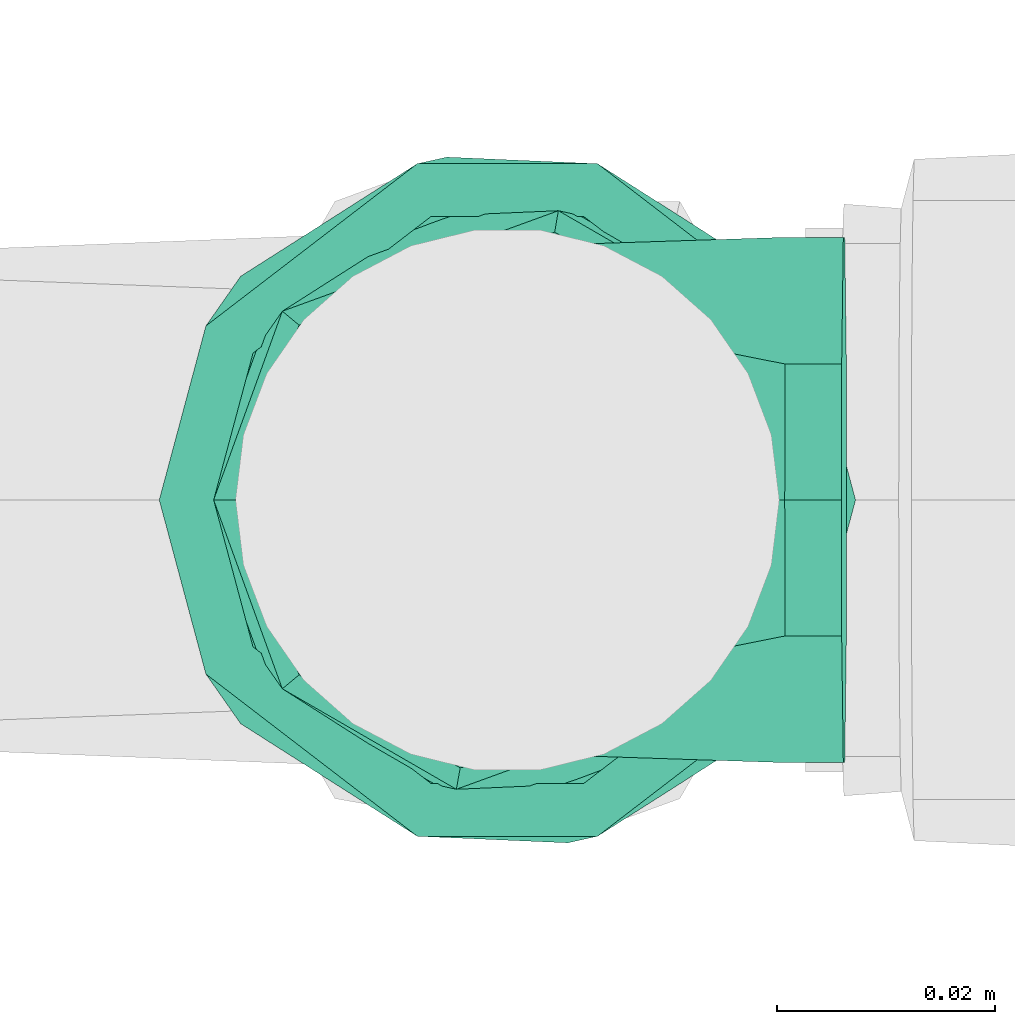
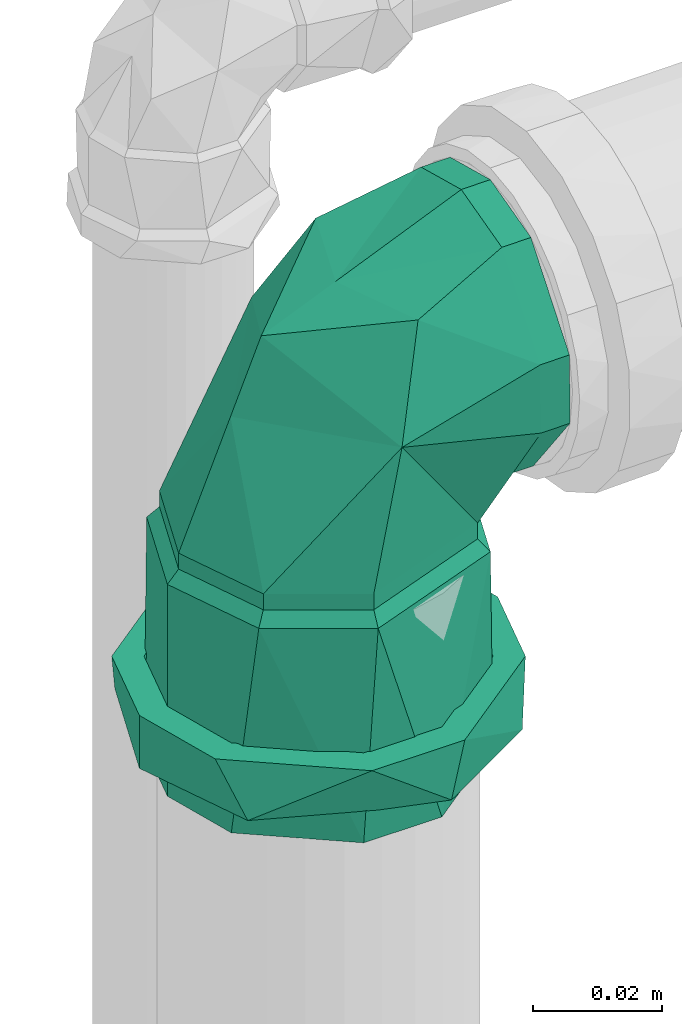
# One storey, part 30 of 589: 1 flow fitting.
"""IFC2X3 building model written with IfcOpenShell, lengths in millimetres."""

from ifc_helpers import new_model, entity, si_unit, converted_unit, derived_unit, direction, frame, origin, place, context, subcontext, project, spatial, faceted_brep, source, transform, mapped, material, type_object, type_shapes, element, save


model = new_model("IFC2X3")

# Units and contexts
model_context = context("Model", 3, precision=0.01, world=origin(), true_north=direction((6.123031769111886e-17, 1.0)))
body_context = subcontext(model_context, "Body", "Model", "MODEL_VIEW")
ifc_project = project(units=[si_unit("LENGTHUNIT", "METRE", prefix="MILLI"), si_unit("AREAUNIT", "SQUARE_METRE"), si_unit("VOLUMEUNIT", "CUBIC_METRE"), converted_unit("PLANEANGLEUNIT", "DEGREE", entity("IfcRatioMeasure", 0.017453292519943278), si_unit("PLANEANGLEUNIT", "RADIAN"), dimensions=[0, 0, 0, 0, 0, 0, 0]), si_unit("MASSUNIT", "GRAM", prefix="KILO"), derived_unit("MASSDENSITYUNIT", [(si_unit("MASSUNIT", "GRAM", prefix="KILO"), 1), (si_unit("LENGTHUNIT", "METRE"), -3)]), derived_unit("IONCONCENTRATIONUNIT", [(si_unit("MASSUNIT", "GRAM", prefix="KILO"), 1), (si_unit("LENGTHUNIT", "METRE"), -3)]), derived_unit("MOMENTOFINERTIAUNIT", [(si_unit("LENGTHUNIT", "METRE"), 4)]), si_unit("TIMEUNIT", "SECOND"), si_unit("FREQUENCYUNIT", "HERTZ"), si_unit("THERMODYNAMICTEMPERATUREUNIT", "DEGREE_CELSIUS"), derived_unit("THERMALTRANSMITTANCEUNIT", [(si_unit("MASSUNIT", "GRAM", prefix="KILO"), 1), (si_unit("THERMODYNAMICTEMPERATUREUNIT", "KELVIN"), -1), (si_unit("TIMEUNIT", "SECOND"), -3)]), derived_unit("THERMALCONDUCTANCEUNIT", [(si_unit("MASSUNIT", "GRAM", prefix="KILO"), 1), (si_unit("THERMODYNAMICTEMPERATUREUNIT", "KELVIN"), -1), (si_unit("TIMEUNIT", "SECOND"), -3), (si_unit("LENGTHUNIT", "METRE"), 1)]), derived_unit("VOLUMETRICFLOWRATEUNIT", [(si_unit("LENGTHUNIT", "METRE"), 3), (si_unit("TIMEUNIT", "SECOND"), -1)]), derived_unit("MASSFLOWRATEUNIT", [(si_unit("MASSUNIT", "GRAM", prefix="KILO"), 1), (si_unit("TIMEUNIT", "SECOND"), -1)]), derived_unit("ROTATIONALFREQUENCYUNIT", [(si_unit("TIMEUNIT", "SECOND"), -1)]), si_unit("ELECTRICCURRENTUNIT", "AMPERE"), si_unit("ELECTRICVOLTAGEUNIT", "VOLT"), si_unit("POWERUNIT", "WATT"), si_unit("FORCEUNIT", "NEWTON", prefix="KILO"), si_unit("ILLUMINANCEUNIT", "LUX"), si_unit("LUMINOUSFLUXUNIT", "LUMEN"), si_unit("LUMINOUSINTENSITYUNIT", "CANDELA"), derived_unit("USERDEFINED", [(si_unit("MASSUNIT", "GRAM", prefix="KILO"), -1), (si_unit("LENGTHUNIT", "METRE"), -2), (si_unit("TIMEUNIT", "SECOND"), 3), (si_unit("LUMINOUSFLUXUNIT", "LUMEN"), 1)]), derived_unit("USERDEFINED", [(si_unit("MASSUNIT", "GRAM", prefix="KILO"), 1), (si_unit("TIMEUNIT", "SECOND"), -3), (si_unit("LENGTHUNIT", "METRE"), 3), (si_unit("ELECTRICCURRENTUNIT", "AMPERE"), -2)]), derived_unit("SOUNDPOWERUNIT", [(si_unit("MASSUNIT", "GRAM", prefix="KILO"), 1), (si_unit("TIMEUNIT", "SECOND"), -3), (si_unit("LENGTHUNIT", "METRE"), 2)]), derived_unit("SOUNDPRESSUREUNIT", [(si_unit("MASSUNIT", "GRAM", prefix="KILO"), 1), (si_unit("LENGTHUNIT", "METRE"), -1), (si_unit("TIMEUNIT", "SECOND"), -2)]), derived_unit("LINEARVELOCITYUNIT", [(si_unit("LENGTHUNIT", "METRE"), 1), (si_unit("TIMEUNIT", "SECOND"), -1)]), si_unit("PRESSUREUNIT", "PASCAL"), derived_unit("USERDEFINED", [(si_unit("MASSUNIT", "GRAM", prefix="KILO"), 1), (si_unit("LENGTHUNIT", "METRE"), -2), (si_unit("TIMEUNIT", "SECOND"), -2)]), derived_unit("LINEARFORCEUNIT", [(si_unit("MASSUNIT", "GRAM", prefix="KILO"), 1), (si_unit("TIMEUNIT", "SECOND"), -2)]), derived_unit("PLANARFORCEUNIT", [(si_unit("MASSUNIT", "GRAM", prefix="KILO"), 1), (si_unit("LENGTHUNIT", "METRE"), -1), (si_unit("TIMEUNIT", "SECOND"), -2)]), derived_unit("SPECIFICHEATCAPACITYUNIT", [(si_unit("THERMODYNAMICTEMPERATUREUNIT", "KELVIN"), -1), (si_unit("LENGTHUNIT", "METRE"), 2), (si_unit("TIMEUNIT", "SECOND"), -2)]), derived_unit("HEATINGVALUEUNIT", [(si_unit("LENGTHUNIT", "METRE"), 2), (si_unit("TIMEUNIT", "SECOND"), -2)]), derived_unit("VAPORPERMEABILITYUNIT", [(si_unit("LENGTHUNIT", "METRE"), -1), (si_unit("TIMEUNIT", "SECOND"), 1)]), derived_unit("DYNAMICVISCOSITYUNIT", [(si_unit("MASSUNIT", "GRAM", prefix="KILO"), 1), (si_unit("TIMEUNIT", "SECOND"), -1), (si_unit("LENGTHUNIT", "METRE"), -1)]), derived_unit("THERMALEXPANSIONCOEFFICIENTUNIT", [(si_unit("THERMODYNAMICTEMPERATUREUNIT", "KELVIN"), -1)]), derived_unit("MODULUSOFELASTICITYUNIT", [(si_unit("MASSUNIT", "GRAM", prefix="KILO"), 1), (si_unit("LENGTHUNIT", "METRE"), -1), (si_unit("TIMEUNIT", "SECOND"), -2)]), derived_unit("ISOTHERMALMOISTURECAPACITYUNIT", [(si_unit("LENGTHUNIT", "METRE"), 3), (si_unit("MASSUNIT", "GRAM", prefix="KILO"), -1)]), derived_unit("MOISTUREDIFFUSIVITYUNIT", [(si_unit("TIMEUNIT", "SECOND"), -1), (si_unit("LENGTHUNIT", "METRE"), 2)])], contexts=[model_context])

# Site, building, storey
site_placement = place(None, origin())
site = spatial("IfcSite", under=ifc_project, at=site_placement, Name="Default", CompositionType="ELEMENT")
building_placement = place(site_placement, origin())
building = spatial("IfcBuilding", under=site, at=building_placement, CompositionType="ELEMENT")
storey_placement = place(building_placement, frame((0.0, 0.0, 100.0)))
storey = spatial("IfcBuildingStorey", under=building, at=storey_placement, Name="TÉRREO", CompositionType="ELEMENT", Elevation=100.0)

# Flow fitting
ifc_material = material(Name="PVC Série Normal")
pipe_fitting_type = type_object("IfcPipeFittingType", Name="PVC Esgoto_Joelho 45_90_Rodrigo MEP:a. Série Normal", PredefinedType="NOTDEFINED", material=ifc_material)
shared_shape = source(origin(), body_context, "Body", "Brep", [
    faceted_brep([(-6.212752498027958, 25.804714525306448, 24.14814565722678), (-21.392152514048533, 25.95650852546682, 12.500000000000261), (-24.741349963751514, 25.990000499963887, 0.0), (-21.392152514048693, 25.956508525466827, -12.499999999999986), (-6.21275249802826, 25.804714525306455, -24.1481456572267), (6.727552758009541, 25.675311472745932, -24.14814565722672), (21.906952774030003, 25.52351747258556, -12.500000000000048), (25.256150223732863, 25.490025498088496, 0.0), (21.906952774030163, 25.52351747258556, 12.499999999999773), (6.7275527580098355, 25.675311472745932, 24.148145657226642), (25.308147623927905, 30.689765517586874, 0.0), (21.958950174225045, 30.72325749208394, -12.500000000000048), (6.779550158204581, 30.87505149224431, -24.14814565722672), (-6.160755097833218, 31.004454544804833, -24.1481456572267), (-21.34015511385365, 31.156248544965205, -12.499999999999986), (-24.689352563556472, 31.18974051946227, 0.0), (-21.340155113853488, 31.1562485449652, 12.500000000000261), (-6.160755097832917, 31.00445454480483, 24.14814565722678), (6.779550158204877, 30.87505149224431, 24.148145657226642), (21.958950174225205, 30.72325749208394, 12.499999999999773)], [[[0, 1, 2, 3, 4, 5, 6, 7, 8, 9]], [[10, 11, 12, 13, 14, 15, 16, 17, 18, 19]], [[7, 10, 19, 8]], [[8, 19, 18, 9]], [[18, 17, 0, 9]], [[0, 17, 16, 1]], [[1, 16, 15, 2]], [[2, 15, 14, 3]], [[3, 14, 13, 4]], [[13, 12, 5, 4]], [[5, 12, 11, 6]], [[6, 11, 10, 7]]]),
    faceted_brep([(-70.94129996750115, -6.988114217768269, -26.07999730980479), (-70.94129996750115, -6.47047612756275, -24.14814565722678), (-70.94129996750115, 6.4704761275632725, -24.148145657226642), (-70.94129996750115, -23.382685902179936, -13.499999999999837), (-70.94129996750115, 6.988114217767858, -26.0799973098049), (-70.94129996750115, -21.650635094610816, -12.500000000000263), (-70.94129996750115, -25.0, 0.0), (-70.94129996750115, -27.0, 0.0), (-70.94129996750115, -21.650635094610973, 12.499999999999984), (-70.94129996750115, -23.382685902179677, 13.500000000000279), (-70.94129996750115, -6.470476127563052, 24.1481456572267), (-70.94129996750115, -6.98811421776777, 26.079997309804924), (-70.94129996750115, 6.470476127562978, 24.14814565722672), (-70.94129996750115, 6.988114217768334, 26.07999730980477), (-70.94129996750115, 21.650635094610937, 12.500000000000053), (-70.94129996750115, 23.38268590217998, 13.499999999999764), (-70.94129996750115, 27.0, 0.0), (-70.94129996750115, 25.0, 0.0), (-70.94129996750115, 23.382685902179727, -13.500000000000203), (-70.94129996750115, 21.6506350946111, -12.499999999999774), (-30.94129996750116, 21.650635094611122, -12.499999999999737), (-30.94129996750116, 25.0, 0.0), (-30.94129996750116, 6.4704761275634, -24.148145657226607), (-30.94129996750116, -6.470476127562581, -24.148145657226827), (-30.94129996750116, -21.650635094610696, -12.500000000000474), (-30.94129996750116, -25.0, 0.0), (-30.94129996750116, -21.65063509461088, 12.500000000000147), (-30.94129996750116, -6.470476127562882, 24.14814565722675), (-30.94129996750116, 6.470476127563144, 24.148145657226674), (-30.94129996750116, 21.650635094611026, 12.499999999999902), (-30.94129996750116, 27.0, 0.0), (-30.941299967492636, 20.682232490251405, 17.356418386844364), (-30.94129996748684, 4.685536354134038, 26.59033187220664), (-30.94129996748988, -20.686585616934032, 17.35122979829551), (-30.94129996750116, -27.0, 0.0), (-30.941299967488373, -8.000524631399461, 21.970780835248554), (-30.94129996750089, -20.686585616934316, -17.35122979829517), (-30.9412999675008, -4.6922062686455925, -26.589155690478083), (-30.94129996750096, 20.682232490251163, -17.356418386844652), (-30.94129996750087, 7.995013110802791, -21.97278703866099), (-28.74129996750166, -4.338459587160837, -24.62067765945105), (-28.741299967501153, 25.0, 0.0), (-28.741299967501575, 19.154245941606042, -16.065953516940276), (-28.741299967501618, 7.407893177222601, -20.34331558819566), (-28.741299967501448, -19.15021526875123, -16.070757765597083), (-28.741299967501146, -25.0, 0.0), (-28.741299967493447, -19.150215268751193, 16.07075776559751), (-28.741299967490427, -7.402789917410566, 20.345173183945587), (-28.74129996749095, 19.15424594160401, 16.065953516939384), (-28.741299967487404, 4.344635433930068, 24.619588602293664), (-25.741299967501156, 25.0, 0.0), (-25.741299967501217, 19.151286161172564, 16.069481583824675), (-25.741299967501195, 4.341396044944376, 24.62016003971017), (-25.741299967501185, -7.404832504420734, 20.344954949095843), (-25.741299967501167, -19.15106105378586, 16.069749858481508), (-25.741299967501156, -25.0, 0.0), (-25.741299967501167, -19.15106105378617, -16.069749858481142), (-25.741299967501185, -4.341051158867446, -24.62022085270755), (-25.741299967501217, 19.15128616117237, -16.069481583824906), (-25.7412999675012, 7.405117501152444, -20.344851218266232), (-6.212752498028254, 25.80471452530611, -24.1481456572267), (-21.39215251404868, 25.95650852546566, -12.499999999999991), (-24.74134996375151, 25.990000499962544, 0.0), (-21.3921525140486, 25.956508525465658, 12.500000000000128), (-6.2127524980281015, 25.80471452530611, 24.14814565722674), (6.7275527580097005, 25.67531147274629, 24.148145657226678), (21.906952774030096, 25.52351747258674, 12.499999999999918), (25.256150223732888, 25.490025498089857, 0.0), (21.90695277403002, 25.523517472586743, -12.500000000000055), (6.727552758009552, 25.67531147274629, -24.14814565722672), (-0.83580225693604, 1.5246716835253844, 23.354962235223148), (-3.2027279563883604, -15.730161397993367, 0.0), (10.140389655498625, -10.242300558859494, 0.0), (16.135012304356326, 8.632944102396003, 15.848254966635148), (-25.03773742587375, 25.289366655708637, 0.0), (15.761400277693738, 3.0452732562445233, 0.0), (16.135011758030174, 8.632944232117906, -15.848255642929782), (-0.8751695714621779, 1.433288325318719, -23.341145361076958)], [[[0, 1, 2]], [[1, 0, 3]], [[2, 4, 0]], [[3, 5, 1]], [[3, 6, 5]], [[6, 3, 7]], [[8, 6, 7]], [[8, 7, 9]], [[9, 10, 8]], [[9, 11, 10]], [[10, 11, 12]], [[13, 12, 11]], [[13, 14, 12]], [[14, 13, 15]], [[16, 14, 15]], [[17, 14, 16]], [[18, 17, 16]], [[18, 19, 17]], [[19, 18, 4]], [[4, 2, 19]], [[20, 21, 17, 19]], [[22, 20, 19, 2]], [[2, 1, 23, 22]], [[24, 23, 1, 5]], [[25, 24, 5, 6]], [[26, 25, 6, 8]], [[27, 26, 8, 10]], [[10, 12, 28, 27]], [[29, 28, 12, 14]], [[21, 29, 14, 17]], [[16, 15, 30]], [[15, 31, 30]], [[31, 15, 13]], [[31, 13, 32]], [[33, 11, 9]], [[34, 9, 7]], [[11, 33, 35, 32]], [[33, 9, 34]], [[11, 32, 13]], [[7, 3, 34]], [[3, 36, 34]], [[36, 3, 0]], [[36, 0, 37]], [[38, 4, 18]], [[30, 18, 16]], [[4, 38, 39, 37]], [[38, 18, 30]], [[4, 37, 0]], [[28, 29, 21, 20, 22, 23, 24, 25, 26, 27]], [[39, 40, 37]], [[41, 42, 30]], [[30, 42, 38]], [[38, 43, 39]], [[44, 45, 36]], [[38, 42, 43]], [[36, 37, 44]], [[34, 36, 45]], [[40, 39, 43]], [[44, 37, 40]], [[45, 46, 33]], [[33, 34, 45]], [[46, 35, 33]], [[46, 47, 35]], [[47, 32, 35]], [[48, 41, 30]], [[48, 31, 49]], [[31, 48, 30]], [[32, 47, 49]], [[49, 31, 32]], [[41, 48, 50]], [[48, 51, 50]], [[51, 48, 49]], [[51, 49, 52]], [[52, 47, 53]], [[46, 54, 53]], [[46, 45, 54]], [[49, 47, 52]], [[54, 45, 55]], [[47, 46, 53]], [[45, 44, 56]], [[45, 56, 55]], [[56, 44, 57]], [[58, 59, 43]], [[44, 40, 57]], [[40, 59, 57]], [[58, 43, 42]], [[42, 50, 58]], [[50, 42, 41]], [[59, 40, 43]], [[60, 61, 62, 63, 64, 65, 66, 67, 68, 69]], [[52, 70, 51]], [[54, 71, 70]], [[70, 52, 53, 54]], [[72, 73, 70]], [[50, 63, 74]], [[51, 63, 50]], [[54, 55, 71]], [[72, 70, 71]], [[75, 67, 66]], [[65, 70, 73]], [[73, 75, 66]], [[74, 63, 62]], [[73, 66, 65]], [[63, 51, 64]], [[70, 64, 51]], [[73, 72, 75]], [[65, 64, 70]], [[72, 76, 75]], [[71, 55, 56]], [[77, 58, 60]], [[77, 57, 59, 58]], [[77, 71, 56]], [[56, 57, 77]], [[77, 69, 76]], [[58, 50, 61]], [[74, 62, 61]], [[71, 77, 72]], [[61, 60, 58]], [[68, 75, 76]], [[68, 67, 75]], [[72, 77, 76]], [[76, 69, 68]], [[60, 69, 77]], [[61, 50, 74]]]),
    faceted_brep([(-53.94129996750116, 6.9881142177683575, -26.07999730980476), (-53.94129996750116, -6.988114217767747, -26.079997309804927), (-53.94129996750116, -8.282209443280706, -30.909626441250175), (-53.94129996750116, 8.28220944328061, -30.9096264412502), (-53.94129996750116, 23.38268590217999, -13.499999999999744), (-53.94129996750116, -27.712812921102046, -16.0), (-53.94129996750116, -23.38268590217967, -13.500000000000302), (-53.94129996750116, -27.0, 0.0), (-53.94129996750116, -32.0, 0.0), (-53.94129996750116, -23.382685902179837, 13.500000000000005), (-53.94129996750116, -27.712812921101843, 16.0), (-53.94129996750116, -6.988114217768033, 26.07999730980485), (-53.94129996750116, -8.28220944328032, 30.909626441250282), (-53.94129996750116, 6.988114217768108, 26.07999730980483), (-53.94129996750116, 8.282209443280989, 30.909626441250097), (-53.94129996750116, 23.382685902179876, 13.499999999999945), (-53.94129996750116, 27.712812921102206, 16.0), (-53.94129996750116, 32.0, 0.0), (-53.94129996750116, 27.0, 0.0), (-53.94129996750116, 27.712812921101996, -16.0), (-63.94129996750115, 27.0, 0.0), (-65.24129996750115, 27.0, 0.0), (-63.94129996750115, 25.191342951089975, -6.750000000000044), (-63.94129996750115, 23.38268590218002, -13.499999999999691), (-63.94129996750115, 19.284042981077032, -16.644999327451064), (-63.94129996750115, 15.185400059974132, -19.789998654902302), (-63.94129996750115, 11.086757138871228, -22.934997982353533), (-63.94129996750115, 6.988114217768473, -26.07999730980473), (-63.94129996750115, 0.0, -26.079997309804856), (-63.94129996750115, -6.988114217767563, -26.079997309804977), (-63.94129996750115, -11.086757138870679, -22.934997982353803), (-63.94129996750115, -15.185400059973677, -19.789998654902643), (-63.94129996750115, -19.284042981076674, -16.644999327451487), (-63.94129996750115, -23.382685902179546, -13.50000000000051), (-63.94129996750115, -25.191342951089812, -6.750000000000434), (-65.24129996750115, -27.0, 0.0), (-63.94129996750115, -27.0, 0.0), (-63.94129996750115, -25.19134295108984, 6.750000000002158), (-63.94129996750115, -23.382685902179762, 13.500000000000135), (-63.94129996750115, -19.284042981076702, 16.64499932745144), (-63.94129996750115, -15.185400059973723, 19.7899986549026), (-63.94129996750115, -11.086757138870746, 22.934997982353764), (-63.94129996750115, -6.988114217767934, 26.079997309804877), (-63.94129996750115, 0.0, 26.079997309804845), (-63.94129996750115, 6.988114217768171, 26.079997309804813), (-63.94129996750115, 11.086757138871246, 22.93499798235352), (-63.94129996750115, 15.185400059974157, 19.789998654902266), (-63.94129996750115, 19.284042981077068, 16.644999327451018), (-63.94129996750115, 23.382685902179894, 13.499999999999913), (-63.94129996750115, 25.19134295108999, 6.74999999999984), (-63.94129996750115, 32.0, 0.0), (-63.94129996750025, 24.512275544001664, 20.570569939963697), (-63.94129996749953, -5.561133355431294, 31.51307341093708), (-63.94129996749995, -24.51743480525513, 20.56442050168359), (-63.94129996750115, -32.0, 0.0), (-63.9412999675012, -24.51743480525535, -20.564420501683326), (-63.941299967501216, 5.553228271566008, -31.514467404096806), (-63.94129996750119, 24.512275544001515, -20.570569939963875), (-65.2412999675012, -23.84329280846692, -8.675614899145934), (-65.24129996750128, -20.686585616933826, -17.351229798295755), (-65.24129996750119, 23.841116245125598, -8.678209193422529), (-65.24129996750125, 20.6822324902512, -17.356418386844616), (-65.24129996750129, -12.689395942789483, -21.970192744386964), (-65.24129996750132, -4.692206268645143, -26.589155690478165), (-65.24129996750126, 14.338622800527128, -19.664602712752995), (-65.24129996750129, 1.6514034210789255, -24.280971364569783), (-65.24129996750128, 7.995013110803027, -21.97278703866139), (-65.24129996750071, 23.84111624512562, 8.678209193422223), (-65.24129996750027, 20.68223249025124, 17.35641838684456), (-65.24129996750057, -23.843292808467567, 8.675614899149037), (-65.24129996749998, -20.68658561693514, 17.351229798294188), (-65.24129996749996, 12.683884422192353, 21.973375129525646), (-65.24129996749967, 4.685536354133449, 26.590331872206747), (-65.2412999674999, -14.343555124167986, 19.66100531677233), (-65.24129996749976, -1.6574941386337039, 24.280556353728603), (-65.24129996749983, -8.000524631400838, 21.97078083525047)], [[[0, 1, 2]], [[2, 3, 0]], [[4, 0, 3]], [[5, 2, 1]], [[1, 6, 5]], [[6, 7, 5]], [[8, 5, 7]], [[8, 7, 9]], [[10, 8, 9]], [[9, 11, 10]], [[11, 12, 10]], [[13, 12, 11]], [[12, 13, 14]], [[13, 15, 14]], [[16, 14, 15]], [[16, 15, 17]], [[17, 15, 18]], [[18, 4, 19]], [[17, 18, 19]], [[3, 19, 4]], [[4, 18, 20, 21, 22, 23]], [[0, 4, 23, 24, 25, 26, 27]], [[0, 27, 28, 29, 1]], [[6, 1, 29, 30, 31, 32, 33]], [[7, 6, 33, 34, 35, 36]], [[9, 7, 36, 35, 37, 38]], [[11, 9, 38, 39, 40, 41, 42]], [[11, 42, 43, 44, 13]], [[15, 13, 44, 45, 46, 47, 48]], [[18, 15, 48, 49, 21, 20]], [[50, 51, 16]], [[50, 16, 17]], [[16, 51, 14]], [[51, 52, 14]], [[12, 52, 53]], [[10, 53, 54]], [[53, 10, 12]], [[10, 54, 8]], [[52, 12, 14]], [[54, 55, 5]], [[54, 5, 8]], [[5, 55, 2]], [[55, 56, 2]], [[3, 56, 57]], [[19, 57, 50]], [[57, 19, 3]], [[19, 50, 17]], [[56, 3, 2]], [[58, 33, 59]], [[23, 60, 61]], [[32, 31, 59, 33]], [[30, 29, 62, 31]], [[24, 23, 61, 25]], [[29, 28, 63]], [[26, 25, 64]], [[65, 63, 28]], [[31, 62, 59]], [[63, 62, 29]], [[60, 22, 21]], [[34, 58, 35]], [[66, 26, 64]], [[28, 27, 65]], [[27, 66, 65]], [[27, 26, 66]], [[64, 25, 61]], [[34, 33, 58]], [[60, 23, 22]], [[67, 48, 68]], [[38, 69, 70]], [[47, 46, 68, 48]], [[45, 44, 71, 46]], [[39, 38, 70, 40]], [[44, 43, 72]], [[41, 40, 73]], [[74, 72, 43]], [[46, 71, 68]], [[72, 71, 44]], [[69, 37, 35]], [[49, 67, 21]], [[75, 41, 73]], [[43, 42, 74]], [[42, 75, 74]], [[42, 41, 75]], [[73, 40, 70]], [[49, 48, 67]], [[69, 38, 37]], [[54, 35, 58, 59, 55]], [[55, 59, 62, 63]], [[55, 63, 56]], [[57, 61, 60, 21, 50]], [[57, 56, 61]], [[56, 63, 65, 66, 64, 61]], [[50, 21, 67, 68, 51]], [[51, 68, 71, 72]], [[51, 72, 52]], [[53, 70, 69, 35, 54]], [[53, 52, 70]], [[52, 72, 74, 75, 73, 70]]]),
])
type_shapes(pipe_fitting_type, [shared_shape])
flow_fitting_placement = place(storey_placement, frame((-7628.327710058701, -7702.352283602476, 3021.319389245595), z_axis=(0.0, 1.0, 0.0), x_axis=(0.0, 0.0, 1.0)))
element("IfcFlowFitting", 1, at=flow_fitting_placement, inside=storey, type_object=pipe_fitting_type, material=ifc_material, Name="PVC Esgoto_Joelho 45_90_Rodrigo MEP:a. Série Normal", ObjectType="PVC Esgoto_Joelho 45_90_Rodrigo MEP:a. Série Normal", context=body_context, shape_type="MappedRepresentation", body=[
    mapped(shared_shape, transform((0.0, 0.0, 0.0), scale=1.0)),
])

save(model, "model.ifc")
